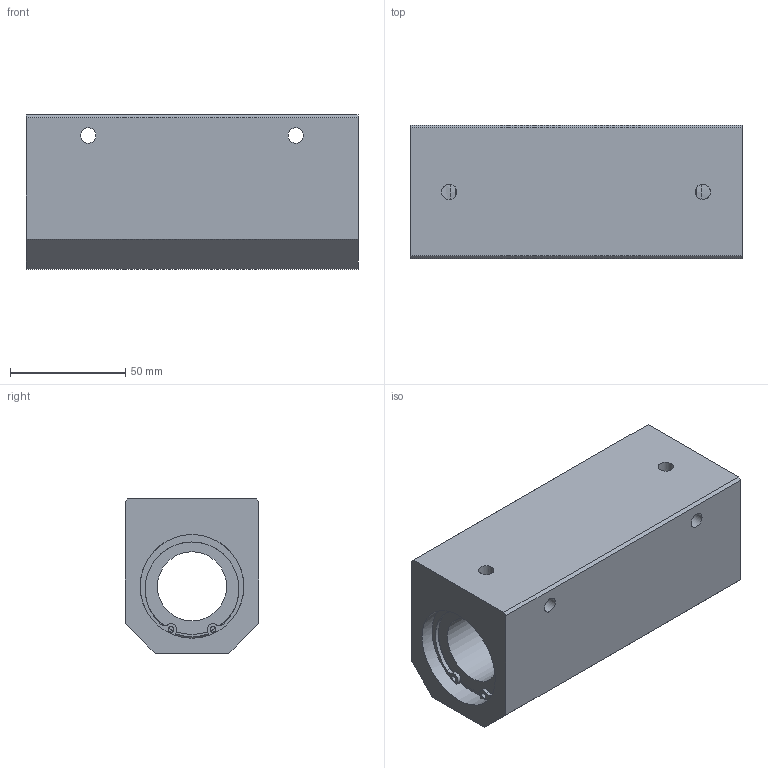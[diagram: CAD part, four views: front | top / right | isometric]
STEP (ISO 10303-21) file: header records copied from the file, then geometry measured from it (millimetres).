
FILE_DESCRIPTION((''),'2;1');
FILE_NAME('D:\製品 (図面)\カタログ用3D\リニアベアリング関連(改)\STEP形式\CHW\CHW30.stp','2010-01-25T09:41:32',('Tsuchiya'),(''),'Autodesk Inventor 10','Autodesk Inventor 10','');
FILE_SCHEMA(('AUTOMOTIVE_DESIGN { 1 0 10303 214 1 1 1 1 }'));
Length unit declared in the file: millimetre
Products named in the file (1): CHW30
Bounding box: 144 x 58 x 67 mm (x, y, z)
Volume: 411976.3 mm3; surface area: 63875.2 mm2
Topology: 1 solids, 4 shells, 92 faces, 238 edges, 145 vertices
Faces by surface type: bspline 41, plane 28, cylinder 21, torus 2
Full cylindrical faces by diameter (mm): 2.5 x2, 30 x1, 41.7 x2, 43 x2, 45 x5
Entity records: 3102 total; most frequent: CARTESIAN_POINT 1040, DIRECTION 422, ORIENTED_EDGE 390, EDGE_CURVE 195, AXIS2_PLACEMENT_3D 185, EDGE_LOOP 148, CIRCLE 133, VERTEX_POINT 131
